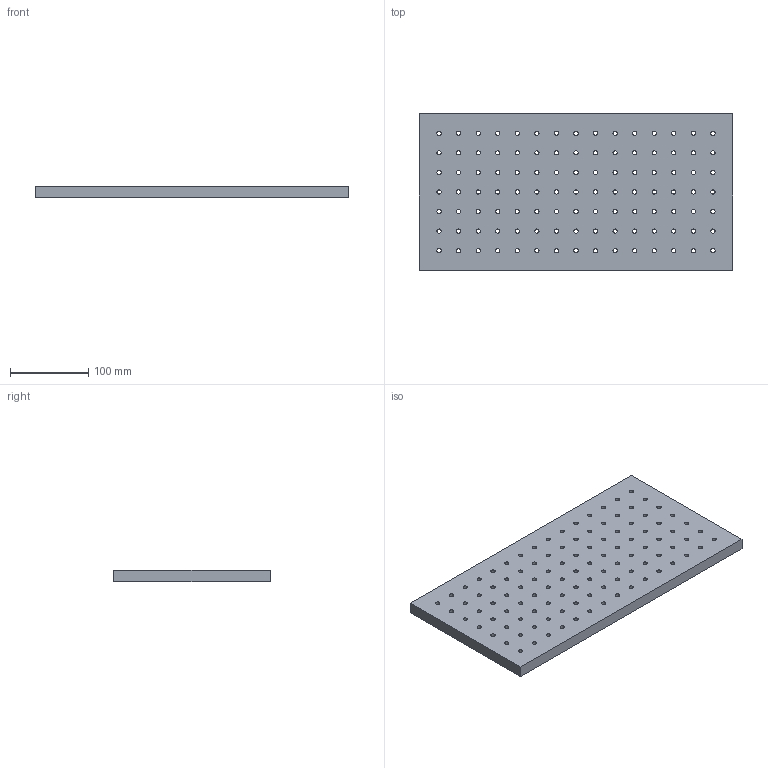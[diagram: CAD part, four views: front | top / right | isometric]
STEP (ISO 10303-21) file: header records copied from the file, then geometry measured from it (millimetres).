
FILE_DESCRIPTION (( 'STEP AP203' ), '1' );
FILE_NAME ('1B-AL-20-40-015.STEP', '2008-10-23T20:36:29', ( 'Darius' ), ( '' ), 'SwSTEP 2.0', 'SolidWorks 2003240', '' );
FILE_SCHEMA (( 'CONFIG_CONTROL_DESIGN' ));
Length unit declared in the file: millimetre
Products named in the file (1): 1B-AL-20-40-015
Bounding box: 400 x 200 x 15 mm (x, y, z)
Volume: 1163136.5 mm3; surface area: 200096 mm2
Topology: 1 solids, 1 shells, 216 faces, 642 edges, 428 vertices
Faces by surface type: cylinder 210, plane 6
Entity records: 8003 total; most frequent: DIRECTION 1496, CARTESIAN_POINT 1287, ORIENTED_EDGE 1284, EDGE_CURVE 642, AXIS2_PLACEMENT_3D 637, VERTEX_POINT 428, EDGE_LOOP 426, CIRCLE 420
